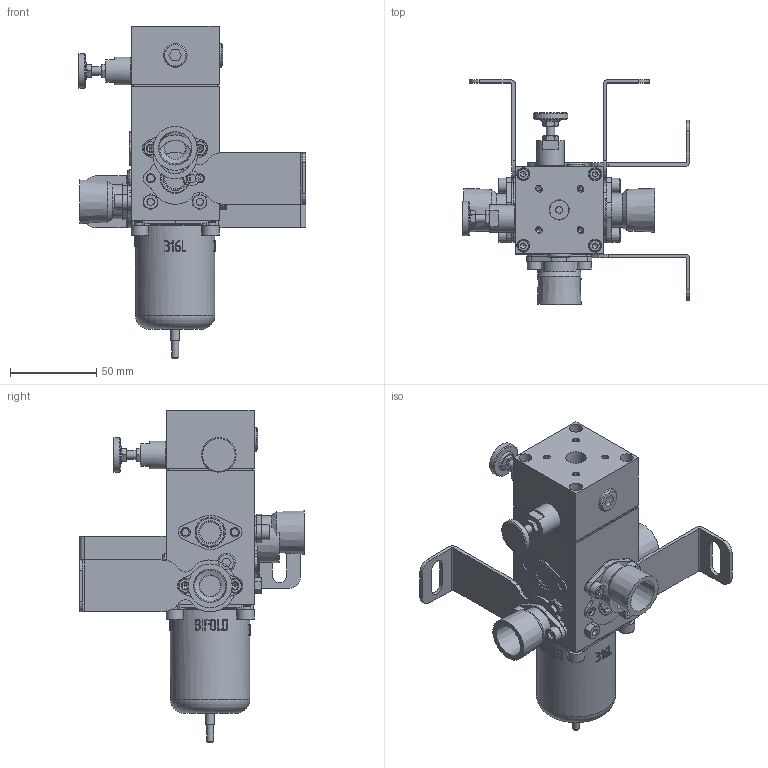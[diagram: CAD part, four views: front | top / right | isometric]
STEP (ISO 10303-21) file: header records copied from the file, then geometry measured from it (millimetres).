
FILE_DESCRIPTION( ( 'Unknown' ), '1' );
FILE_NAME( 'K:/Shared Technical Files/3D Models/VBP-08-11-X-MD-X4.stp', 'Unknown', ( 'Unknown' ), ( 'Unknown' ), 'PSStep 13.0', 'Unknown', ' ' );
FILE_SCHEMA( ( 'AUTOMOTIVE_DESIGN { 1 0 10303 214 1 1 1 1 }' ) );
Length unit declared in the file: millimetre
Products named in the file (3): Assem1; VBP-08-B-11-X-MD; +CPB3-10
Bounding box: 131.85 x 130.25 x 192.21 mm (x, y, z)
Volume: 588903.1 mm3; surface area: 194765.2 mm2
Topology: 6 solids, 36 shells, 1858 faces, 4344 edges, 2780 vertices
Faces by surface type: plane 874, cylinder 512, cone 282, torus 88, extrusion 54, bspline 48
Full cylindrical faces by diameter (mm): 1.505 x2, 1.54 x2, 2 x4, 2.35 x4, 2.4 x2, 3 x6, 3.3 x16, 3.7 x6, 3.8 x2, 3.98 x2, 4 x38, 4.02 x8, 4.134 x2, 4.2 x12, 4.5 x8, 4.98 x2, 5 x28, 5.018 x4, 5.2 x8, 5.5 x16, 6 x8, 7 x8, 7.5 x8, 8 x4, 8.5 x10, 8.7 x8, 9 x2, 9.52 x2, 9.738 x2, 10 x4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
Entity records: 31147 total; most frequent: CARTESIAN_POINT 6479, DIRECTION 3768, ORIENTED_EDGE 3174, EDGE_CURVE 1587, AXIS2_PLACEMENT_3D 1534, EDGE_LOOP 1261, VERTEX_POINT 1153, FACE_OUTER_BOUND 1033
